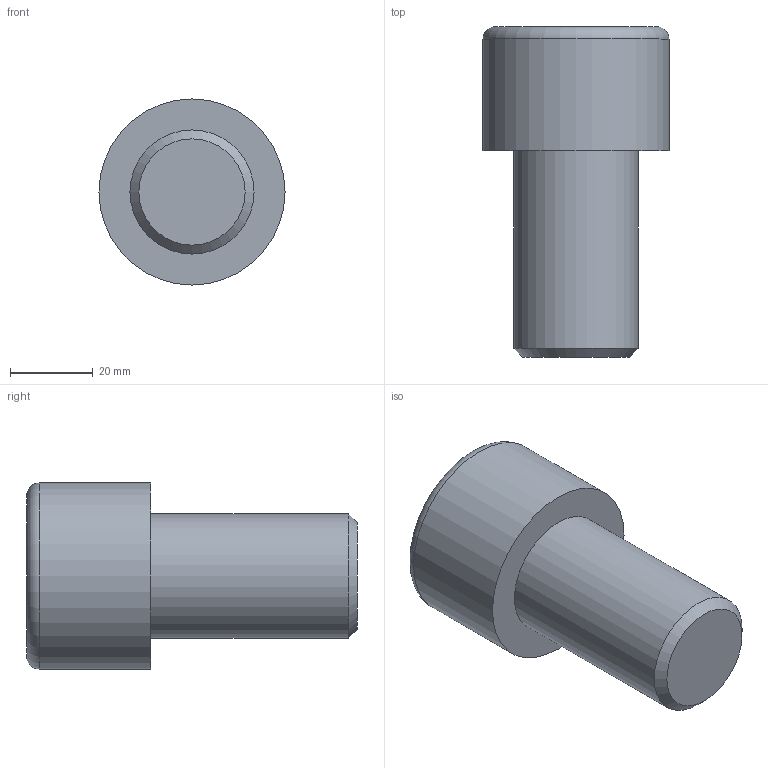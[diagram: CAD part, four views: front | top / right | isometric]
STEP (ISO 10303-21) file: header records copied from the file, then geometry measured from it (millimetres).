
FILE_DESCRIPTION(/* description */ (''),/* implementation_level */ '2;1');
FILE_NAME(/* name */ 'C:\Users\D\Documents\Inventor\各種小物\JIS\JIS B 1176 六角穴付きボルト\M30x50.stp',/* time_stamp */ '2022-05-09T19:02:04+09:00',/* author */ ('D'),/* organization */ (''),/* preprocessor_version */ 'ST-DEVELOPER v18',/* originating_system */ 'Autodesk Inventor 2020',/* authorisation */ '');
FILE_SCHEMA (('AUTOMOTIVE_DESIGN { 1 0 10303 214 3 1 1 }'));
Length unit declared in the file: millimetre
Products named in the file (1): M1.6x2.5
Bounding box: 45 x 80 x 45 mm (x, y, z)
Volume: 74881.6 mm3; surface area: 13118.9 mm2
Topology: 1 solids, 1 shells, 14 faces, 33 edges, 22 vertices
Faces by surface type: plane 9, cone 2, cylinder 2, torus 1
Full cylindrical faces by diameter (mm): 30 x1, 45 x1
Entity records: 435 total; most frequent: CARTESIAN_POINT 83, ORIENTED_EDGE 64, DIRECTION 64, EDGE_CURVE 32, AXIS2_PLACEMENT_3D 24, VERTEX_POINT 22, EDGE_LOOP 16, LINE 16
